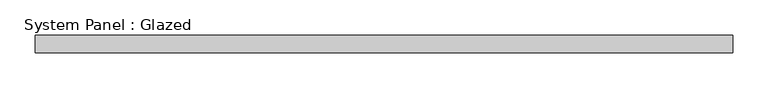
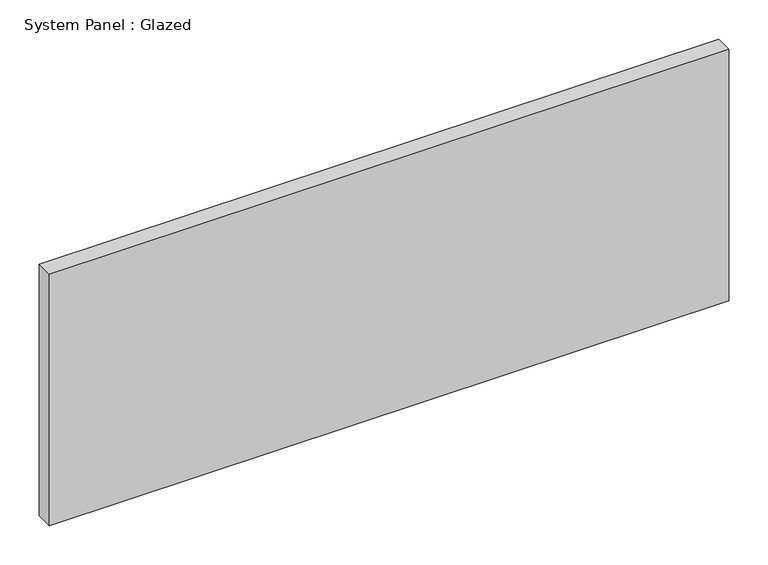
"""IFC4 building model written with IfcOpenShell, lengths in millimetres: plate geometry, System Panel : Glazed."""

from ifc_helpers import new_model, si_unit, origin, origin_with_axes, place, context, project, spatial, polyline, outline, extrude, source, transform, mapped, element, save


def system_panel_glazed_5ad847c7(model_context):
    return source(origin(), model_context, "Body", "SweptSolid", [
        extrude(outline(polyline([(498.475, 19.05), (-498.475, 19.05), (-498.475, 44.45), (498.475, 44.45), (498.475, 19.05)])), origin_with_axes(), (0.0, 0.0, 1.0), 389.9973635),
    ])


if __name__ == "__main__":
    model = new_model("IFC4")
    model_context = context("Model", 3, world=origin())
    ifc_project = project(units=[si_unit("LENGTHUNIT", "METRE", prefix="MILLI")], contexts=[model_context])
    site = spatial("IfcSite", under=ifc_project)
    building = spatial("IfcBuilding", under=site)
    placement = place(None, origin())
    system_panel_glazed_shape = system_panel_glazed_5ad847c7(model_context)
    element("IfcPlate", 1, ObjectType="System Panel : Glazed", at=placement, inside=building, context=model_context, shape_type="MappedRepresentation", body=[
        mapped(system_panel_glazed_shape, transform((0.0, 0.0, 0.0), x_axis=(1.0, 0.0, 0.0), y_axis=(0.0, 1.0, 0.0), z_axis=(0.0, 0.0, 1.0))),
    ])
    save(model, "model.ifc")
